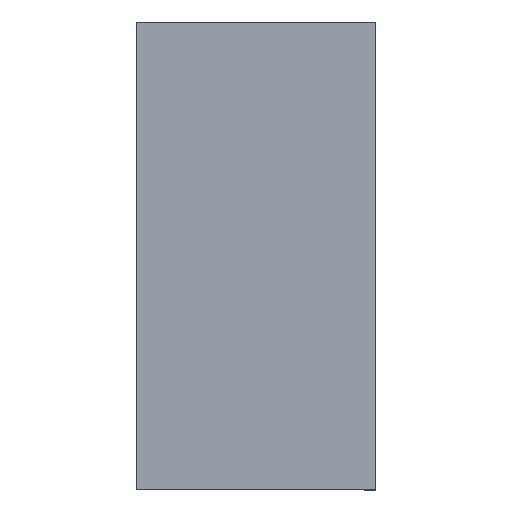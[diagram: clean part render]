
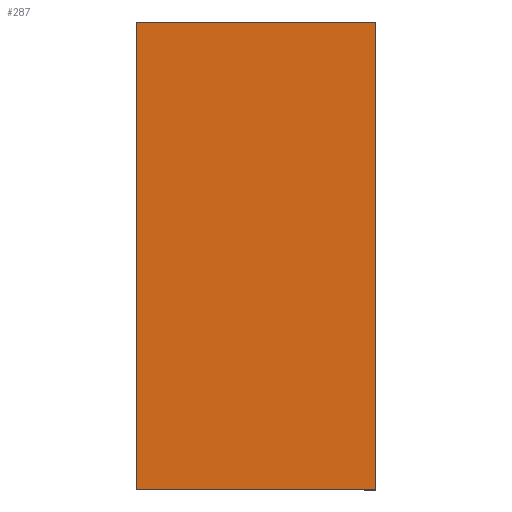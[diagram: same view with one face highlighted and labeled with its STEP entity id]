
A CAD part, top view. The second image highlights one B-rep face of the part: STEP entity #287.
In plain terms, the highlighted planar face has unit normal (0, 0, 1).
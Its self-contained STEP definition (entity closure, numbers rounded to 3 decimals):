
#149=ORIENTED_EDGE('',*,*,#206,.T.);
#150=ORIENTED_EDGE('',*,*,#207,.F.);
#151=ORIENTED_EDGE('',*,*,#203,.F.);
#152=ORIENTED_EDGE('',*,*,#208,.T.);
#171=VECTOR('',#231,1.);
#174=VECTOR('',#236,1.);
#175=VECTOR('',#237,1.);
#176=VECTOR('',#238,1.);
#183=LINE('',#259,#171);
#186=LINE('',#265,#174);
#187=LINE('',#266,#175);
#188=LINE('',#267,#176);
#195=VERTEX_POINT('',#257);
#196=VERTEX_POINT('',#258);
#197=VERTEX_POINT('',#263);
#198=VERTEX_POINT('',#264);
#203=EDGE_CURVE('',#195,#196,#183,.T.);
#206=EDGE_CURVE('',#197,#198,#186,.T.);
#207=EDGE_CURVE('',#196,#198,#187,.T.);
#208=EDGE_CURVE('',#195,#197,#188,.T.);
#213=EDGE_LOOP('',(#149,#150,#151,#152));
#219=FACE_BOUND('',#213,.T.);
#231=DIRECTION('',(-679.,0.,0.));
#234=DIRECTION('',(0.,0.,1.));
#235=DIRECTION('',(0.,-1.,0.));
#236=DIRECTION('',(-679.,0.,0.));
#237=DIRECTION('',(0.,1326.,0.));
#238=DIRECTION('',(0.,1326.,0.));
#257=CARTESIAN_POINT('',(679.,0.,4.19));
#258=CARTESIAN_POINT('',(0.,0.,4.19));
#259=CARTESIAN_POINT('',(679.,0.,4.19));
#262=CARTESIAN_POINT('',(679.,1326.,4.19));
#263=CARTESIAN_POINT('',(679.,1326.,4.19));
#264=CARTESIAN_POINT('',(0.,1326.,4.19));
#265=CARTESIAN_POINT('',(679.,1326.,4.19));
#266=CARTESIAN_POINT('',(0.,0.,4.19));
#267=CARTESIAN_POINT('',(679.,0.,4.19));
#275=AXIS2_PLACEMENT_3D('',#262,#234,#235);
#281=PLANE('',#275);
#287=ADVANCED_FACE('',(#219),#281,.T.);
